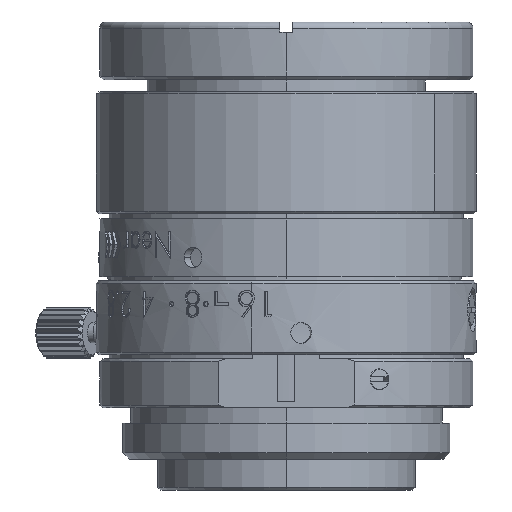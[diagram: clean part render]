
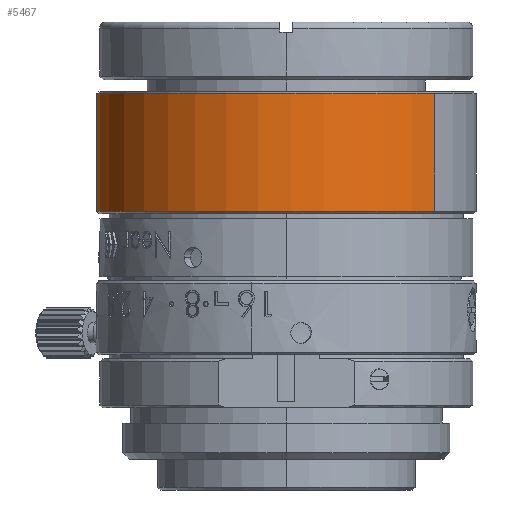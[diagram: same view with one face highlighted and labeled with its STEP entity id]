
A CAD part, left-side view. The second image highlights one B-rep face of the part: STEP entity #5467.
In plain terms, the highlighted cylindrical face has radius 14.75 mm (diameter 29.5 mm), a partial arc.
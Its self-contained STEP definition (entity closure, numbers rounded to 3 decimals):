
#719 = FACE_OUTER_BOUND ( 'NONE', #40412, .T. ) ;
#1278 = VERTEX_POINT ( 'NONE', #27112 ) ;
#2534 = DIRECTION ( 'NONE',  ( 0., 0., 1. ) ) ;
#3346 = AXIS2_PLACEMENT_3D ( 'NONE', #47055, #25326, #3520 ) ;
#3520 = DIRECTION ( 'NONE',  ( -0.624, -0.781, 0. ) ) ;
#3734 = VECTOR ( 'NONE', #43305, 1000. ) ;
#5467 = ADVANCED_FACE ( 'NONE', ( #719 ), #18965, .T. ) ;
#5738 = ORIENTED_EDGE ( 'NONE', *, *, #17120, .T. ) ;
#6139 = DIRECTION ( 'NONE',  ( 0., 0., 1. ) ) ;
#11725 = VERTEX_POINT ( 'NONE', #46853 ) ;
#12953 = DIRECTION ( 'NONE',  ( 0., 0., 1. ) ) ;
#13280 = ORIENTED_EDGE ( 'NONE', *, *, #39141, .F. ) ;
#13577 = LINE ( 'NONE', #42351, #31752 ) ;
#14587 = LINE ( 'NONE', #36041, #3734 ) ;
#16603 = CARTESIAN_POINT ( 'NONE',  ( 0., 0., 25.562 ) ) ;
#17120 = EDGE_CURVE ( 'NONE', #31489, #1278, #27695, .T. ) ;
#18284 = EDGE_CURVE ( 'NONE', #1278, #25041, #14587, .T. ) ;
#18965 = CYLINDRICAL_SURFACE ( 'NONE', #40338, 14.75 ) ;
#24339 = CARTESIAN_POINT ( 'NONE',  ( 0., 0., 23.44 ) ) ;
#25041 = VERTEX_POINT ( 'NONE', #26965 ) ;
#25326 = DIRECTION ( 'NONE',  ( 0., 0., 1. ) ) ;
#26965 = CARTESIAN_POINT ( 'NONE',  ( -9.204, -11.526, 23.44 ) ) ;
#27112 = CARTESIAN_POINT ( 'NONE',  ( -9.204, -11.526, 14.29 ) ) ;
#27695 = CIRCLE ( 'NONE', #3346, 14.75 ) ;
#28002 = DIRECTION ( 'NONE',  ( -0.624, -0.781, 0. ) ) ;
#29815 = ORIENTED_EDGE ( 'NONE', *, *, #18284, .T. ) ;
#31489 = VERTEX_POINT ( 'NONE', #42565 ) ;
#31752 = VECTOR ( 'NONE', #6139, 1000. ) ;
#33570 = AXIS2_PLACEMENT_3D ( 'NONE', #24339, #2534, #28002 ) ;
#33953 = ORIENTED_EDGE ( 'NONE', *, *, #38506, .F. ) ;
#36041 = CARTESIAN_POINT ( 'NONE',  ( -9.204, -11.526, 25.562 ) ) ;
#38506 = EDGE_CURVE ( 'NONE', #11725, #25041, #42014, .T. ) ;
#39141 = EDGE_CURVE ( 'NONE', #31489, #11725, #13577, .T. ) ;
#40338 = AXIS2_PLACEMENT_3D ( 'NONE', #16603, #12953, #42021 ) ;
#40412 = EDGE_LOOP ( 'NONE', ( #13280, #5738, #29815, #33953 ) ) ;
#42014 = CIRCLE ( 'NONE', #33570, 14.75 ) ;
#42021 = DIRECTION ( 'NONE',  ( -0.624, -0.781, 0. ) ) ;
#42351 = CARTESIAN_POINT ( 'NONE',  ( 9.204, 11.526, 25.562 ) ) ;
#42565 = CARTESIAN_POINT ( 'NONE',  ( 9.204, 11.526, 14.29 ) ) ;
#43305 = DIRECTION ( 'NONE',  ( 0., 0., 1. ) ) ;
#46853 = CARTESIAN_POINT ( 'NONE',  ( 9.204, 11.526, 23.44 ) ) ;
#47055 = CARTESIAN_POINT ( 'NONE',  ( 0., 0., 14.29 ) ) ;
